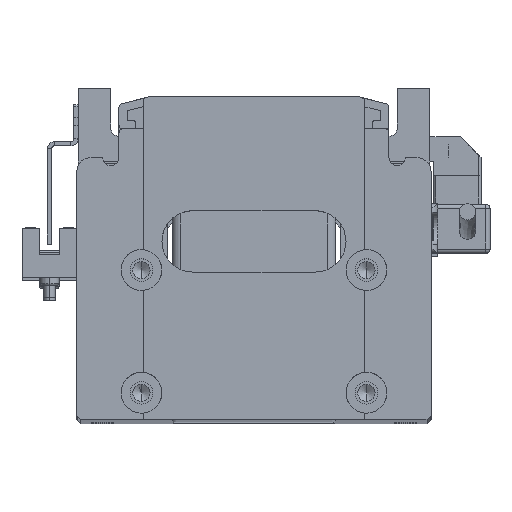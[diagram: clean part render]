
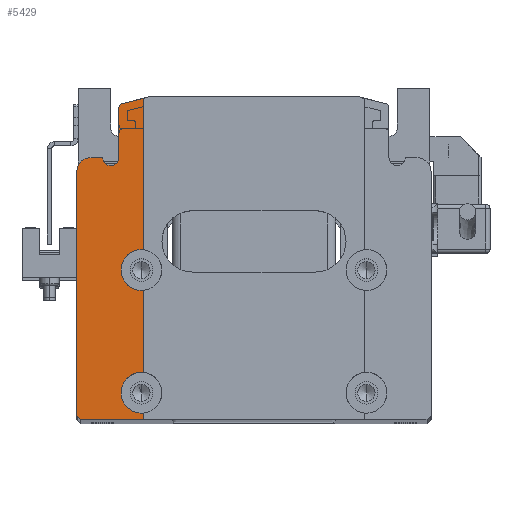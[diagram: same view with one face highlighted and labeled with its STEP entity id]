
A CAD part, top view. The second image highlights one B-rep face of the part: STEP entity #5429.
In plain terms, the highlighted planar face has unit normal (0, 0, 1).
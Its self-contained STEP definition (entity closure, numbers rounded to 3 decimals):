
#178 = VERTEX_POINT ( 'NONE', #9282 ) ;
#385 = EDGE_CURVE ( 'NONE', #30207, #17493, #20842, .T. ) ;
#705 = DIRECTION ( 'NONE',  ( 0., 1., 0. ) ) ;
#1188 = DIRECTION ( 'NONE',  ( 0., 1., 0. ) ) ;
#1590 = AXIS2_PLACEMENT_3D ( 'NONE', #40947, #20950, #10811 ) ;
#1735 = CARTESIAN_POINT ( 'NONE',  ( -35., 24.5, 12.5 ) ) ;
#1878 = VERTEX_POINT ( 'NONE', #6901 ) ;
#2002 = ORIENTED_EDGE ( 'NONE', *, *, #5988, .T. ) ;
#2035 = AXIS2_PLACEMENT_3D ( 'NONE', #25829, #32855, #29236 ) ;
#2111 = LINE ( 'NONE', #37621, #42566 ) ;
#2208 = DIRECTION ( 'NONE',  ( 1., 0., 0. ) ) ;
#2501 = CARTESIAN_POINT ( 'NONE',  ( -27., 39.5, 12.5 ) ) ;
#3464 = ORIENTED_EDGE ( 'NONE', *, *, #385, .F. ) ;
#3481 = VECTOR ( 'NONE', #33850, 1000. ) ;
#3870 = EDGE_CURVE ( 'NONE', #4259, #19375, #6758, .T. ) ;
#4259 = VERTEX_POINT ( 'NONE', #27795 ) ;
#4414 = CARTESIAN_POINT ( 'NONE',  ( -27., 39.5, 12.5 ) ) ;
#4868 = ORIENTED_EDGE ( 'NONE', *, *, #12153, .F. ) ;
#4878 = VERTEX_POINT ( 'NONE', #40233 ) ;
#4898 = CARTESIAN_POINT ( 'NONE',  ( -32.5, -33., 12.5 ) ) ;
#5056 = AXIS2_PLACEMENT_3D ( 'NONE', #1735, #31974, #18518 ) ;
#5162 = DIRECTION ( 'NONE',  ( 1., 0., 0. ) ) ;
#5305 = EDGE_CURVE ( 'NONE', #37089, #22829, #33959, .T. ) ;
#5376 = EDGE_CURVE ( 'NONE', #39757, #21970, #23457, .T. ) ;
#5426 = ORIENTED_EDGE ( 'NONE', *, *, #31557, .T. ) ;
#5429 = ADVANCED_FACE ( 'NONE', ( #38145 ), #14767, .T. ) ;
#5988 = EDGE_CURVE ( 'NONE', #39757, #23242, #21816, .T. ) ;
#6070 = VECTOR ( 'NONE', #41377, 1000. ) ;
#6665 = EDGE_CURVE ( 'NONE', #34968, #178, #10188, .T. ) ;
#6754 = CARTESIAN_POINT ( 'NONE',  ( -40.9, -40.9, 12.5 ) ) ;
#6758 = LINE ( 'NONE', #4414, #32463 ) ;
#6901 = CARTESIAN_POINT ( 'NONE',  ( -26.243, 39.189, 12.5 ) ) ;
#7014 = VECTOR ( 'NONE', #19558, 1000. ) ;
#7510 = VERTEX_POINT ( 'NONE', #19760 ) ;
#8072 = CARTESIAN_POINT ( 'NONE',  ( -43.3, 39.5, 12.5 ) ) ;
#8385 = LINE ( 'NONE', #8072, #16313 ) ;
#8492 = CARTESIAN_POINT ( 'NONE',  ( -10.765, 43.059, 12.5 ) ) ;
#8633 = ORIENTED_EDGE ( 'NONE', *, *, #5305, .T. ) ;
#8782 = CARTESIAN_POINT ( 'NONE',  ( -27., -39.5, 12.5 ) ) ;
#9155 = CARTESIAN_POINT ( 'NONE',  ( -43.3, 21., 12.5 ) ) ;
#9282 = CARTESIAN_POINT ( 'NONE',  ( -27., -7.975, 12.5 ) ) ;
#10035 = CARTESIAN_POINT ( 'NONE',  ( -42.3, -39.5, 12.5 ) ) ;
#10188 = CIRCLE ( 'NONE', #16264, 5. ) ;
#10811 = DIRECTION ( 'NONE',  ( 1., 0., 0. ) ) ;
#11774 = CARTESIAN_POINT ( 'NONE',  ( -27.5, -33., 12.5 ) ) ;
#12129 = CARTESIAN_POINT ( 'NONE',  ( -33., 0., 12.5 ) ) ;
#12153 = EDGE_CURVE ( 'NONE', #4259, #34968, #12403, .T. ) ;
#12403 = CIRCLE ( 'NONE', #39812, 5. ) ;
#12689 = ORIENTED_EDGE ( 'NONE', *, *, #42609, .T. ) ;
#13180 = CARTESIAN_POINT ( 'NONE',  ( -43.3, -38.5, 12.5 ) ) ;
#13364 = DIRECTION ( 'NONE',  ( 0.707, -0.707, 0. ) ) ;
#14310 = ORIENTED_EDGE ( 'NONE', *, *, #30337, .T. ) ;
#14554 = AXIS2_PLACEMENT_3D ( 'NONE', #38849, #42062, #35318 ) ;
#14619 = LINE ( 'NONE', #6754, #20944 ) ;
#14767 = PLANE ( 'NONE',  #1590 ) ;
#15173 = DIRECTION ( 'NONE',  ( 0., 0., 1. ) ) ;
#15302 = DIRECTION ( 'NONE',  ( -0.97, -0.243, 0. ) ) ;
#15418 = DIRECTION ( 'NONE',  ( 1., 0., 0. ) ) ;
#15521 = DIRECTION ( 'NONE',  ( 0., 1., 0. ) ) ;
#15924 = EDGE_CURVE ( 'NONE', #21970, #18767, #17233, .T. ) ;
#16264 = AXIS2_PLACEMENT_3D ( 'NONE', #28010, #17918, #41819 ) ;
#16313 = VECTOR ( 'NONE', #35428, 1000. ) ;
#16459 = EDGE_CURVE ( 'NONE', #17493, #18694, #43407, .T. ) ;
#17233 = CIRCLE ( 'NONE', #5056, 2. ) ;
#17493 = VERTEX_POINT ( 'NONE', #4898 ) ;
#17918 = DIRECTION ( 'NONE',  ( 0., 0., 1. ) ) ;
#18404 = VECTOR ( 'NONE', #15521, 1000. ) ;
#18518 = DIRECTION ( 'NONE',  ( 1., 0., 0. ) ) ;
#18694 = VERTEX_POINT ( 'NONE', #24919 ) ;
#18767 = VERTEX_POINT ( 'NONE', #29015 ) ;
#19285 = CARTESIAN_POINT ( 'NONE',  ( -27.5, -3., 12.5 ) ) ;
#19375 = VERTEX_POINT ( 'NONE', #37408 ) ;
#19558 = DIRECTION ( 'NONE',  ( 0., 1., 0. ) ) ;
#19760 = CARTESIAN_POINT ( 'NONE',  ( -33., 36.719, 12.5 ) ) ;
#20806 = CARTESIAN_POINT ( 'NONE',  ( -32.5, -3., 12.5 ) ) ;
#20842 = CIRCLE ( 'NONE', #25642, 5. ) ;
#20944 = VECTOR ( 'NONE', #13364, 1000. ) ;
#20950 = DIRECTION ( 'NONE',  ( 0., 0., 1. ) ) ;
#21089 = AXIS2_PLACEMENT_3D ( 'NONE', #38649, #22303, #15418 ) ;
#21375 = CARTESIAN_POINT ( 'NONE',  ( 0., 24.5, 12.5 ) ) ;
#21629 = CIRCLE ( 'NONE', #2035, 1. ) ;
#21816 = CIRCLE ( 'NONE', #41058, 3.5 ) ;
#21969 = ORIENTED_EDGE ( 'NONE', *, *, #3870, .T. ) ;
#21970 = VERTEX_POINT ( 'NONE', #30502 ) ;
#22065 = ORIENTED_EDGE ( 'NONE', *, *, #5376, .F. ) ;
#22303 = DIRECTION ( 'NONE',  ( 0., 0., 1. ) ) ;
#22829 = VERTEX_POINT ( 'NONE', #8782 ) ;
#23242 = VERTEX_POINT ( 'NONE', #9155 ) ;
#23457 = LINE ( 'NONE', #21375, #6070 ) ;
#23883 = ORIENTED_EDGE ( 'NONE', *, *, #28415, .T. ) ;
#24729 = CIRCLE ( 'NONE', #14554, 1. ) ;
#24919 = CARTESIAN_POINT ( 'NONE',  ( -27., -37.975, 12.5 ) ) ;
#25256 = LINE ( 'NONE', #12129, #18404 ) ;
#25642 = AXIS2_PLACEMENT_3D ( 'NONE', #11774, #15173, #5162 ) ;
#25829 = CARTESIAN_POINT ( 'NONE',  ( -26., 38.219, 12.5 ) ) ;
#25856 = DIRECTION ( 'NONE',  ( 0., 0., 1. ) ) ;
#27399 = ORIENTED_EDGE ( 'NONE', *, *, #16459, .F. ) ;
#27795 = CARTESIAN_POINT ( 'NONE',  ( -27., 1.975, 12.5 ) ) ;
#28010 = CARTESIAN_POINT ( 'NONE',  ( -27.5, -3., 12.5 ) ) ;
#28067 = CARTESIAN_POINT ( 'NONE',  ( -39.8, 21., 12.5 ) ) ;
#28372 = DIRECTION ( 'NONE',  ( 1., 0., 0. ) ) ;
#28415 = EDGE_CURVE ( 'NONE', #19375, #1878, #21629, .T. ) ;
#28837 = VERTEX_POINT ( 'NONE', #13180 ) ;
#29015 = CARTESIAN_POINT ( 'NONE',  ( -33., 24.5, 12.5 ) ) ;
#29236 = DIRECTION ( 'NONE',  ( 1., 0., 0. ) ) ;
#30207 = VERTEX_POINT ( 'NONE', #41424 ) ;
#30337 = EDGE_CURVE ( 'NONE', #22829, #18694, #2111, .T. ) ;
#30502 = CARTESIAN_POINT ( 'NONE',  ( -37., 24.5, 12.5 ) ) ;
#31008 = EDGE_CURVE ( 'NONE', #4878, #7510, #24729, .T. ) ;
#31157 = EDGE_CURVE ( 'NONE', #23242, #28837, #8385, .T. ) ;
#31287 = EDGE_LOOP ( 'NONE', ( #5426, #42011, #43208, #41548, #22065, #2002, #32102, #33288, #8633, #14310, #27399, #3464, #12689, #40660, #4868, #21969, #23883 ) ) ;
#31557 = EDGE_CURVE ( 'NONE', #1878, #4878, #42534, .T. ) ;
#31974 = DIRECTION ( 'NONE',  ( 0., 0., 1. ) ) ;
#32102 = ORIENTED_EDGE ( 'NONE', *, *, #31157, .T. ) ;
#32197 = EDGE_CURVE ( 'NONE', #18767, #7510, #25256, .T. ) ;
#32220 = CARTESIAN_POINT ( 'NONE',  ( -39.8, 24.5, 12.5 ) ) ;
#32463 = VECTOR ( 'NONE', #1188, 1000. ) ;
#32855 = DIRECTION ( 'NONE',  ( 0., 0., -1. ) ) ;
#33288 = ORIENTED_EDGE ( 'NONE', *, *, #36560, .T. ) ;
#33850 = DIRECTION ( 'NONE',  ( 1., 0., 0. ) ) ;
#33959 = LINE ( 'NONE', #40782, #3481 ) ;
#34556 = DIRECTION ( 'NONE',  ( 0., 0., 1. ) ) ;
#34699 = VECTOR ( 'NONE', #15302, 1000. ) ;
#34968 = VERTEX_POINT ( 'NONE', #20806 ) ;
#35318 = DIRECTION ( 'NONE',  ( 1., 0., 0. ) ) ;
#35420 = LINE ( 'NONE', #2501, #7014 ) ;
#35428 = DIRECTION ( 'NONE',  ( 0., -1., 0. ) ) ;
#36560 = EDGE_CURVE ( 'NONE', #28837, #37089, #14619, .T. ) ;
#37089 = VERTEX_POINT ( 'NONE', #10035 ) ;
#37408 = CARTESIAN_POINT ( 'NONE',  ( -27., 38.219, 12.5 ) ) ;
#37621 = CARTESIAN_POINT ( 'NONE',  ( -27., 39.5, 12.5 ) ) ;
#38145 = FACE_OUTER_BOUND ( 'NONE', #31287, .T. ) ;
#38649 = CARTESIAN_POINT ( 'NONE',  ( -27.5, -33., 12.5 ) ) ;
#38849 = CARTESIAN_POINT ( 'NONE',  ( -32., 36.719, 12.5 ) ) ;
#39757 = VERTEX_POINT ( 'NONE', #32220 ) ;
#39812 = AXIS2_PLACEMENT_3D ( 'NONE', #19285, #25856, #2208 ) ;
#40233 = CARTESIAN_POINT ( 'NONE',  ( -32.243, 37.689, 12.5 ) ) ;
#40660 = ORIENTED_EDGE ( 'NONE', *, *, #6665, .F. ) ;
#40782 = CARTESIAN_POINT ( 'NONE',  ( -43.3, -39.5, 12.5 ) ) ;
#40947 = CARTESIAN_POINT ( 'NONE',  ( 0., 0., 12.5 ) ) ;
#41058 = AXIS2_PLACEMENT_3D ( 'NONE', #28067, #34556, #28372 ) ;
#41377 = DIRECTION ( 'NONE',  ( 1., 0., 0. ) ) ;
#41424 = CARTESIAN_POINT ( 'NONE',  ( -27., -28.025, 12.5 ) ) ;
#41548 = ORIENTED_EDGE ( 'NONE', *, *, #15924, .F. ) ;
#41819 = DIRECTION ( 'NONE',  ( 1., 0., 0. ) ) ;
#42011 = ORIENTED_EDGE ( 'NONE', *, *, #31008, .T. ) ;
#42062 = DIRECTION ( 'NONE',  ( 0., 0., 1. ) ) ;
#42534 = LINE ( 'NONE', #8492, #34699 ) ;
#42566 = VECTOR ( 'NONE', #705, 1000. ) ;
#42609 = EDGE_CURVE ( 'NONE', #30207, #178, #35420, .T. ) ;
#43208 = ORIENTED_EDGE ( 'NONE', *, *, #32197, .F. ) ;
#43407 = CIRCLE ( 'NONE', #21089, 5. ) ;
